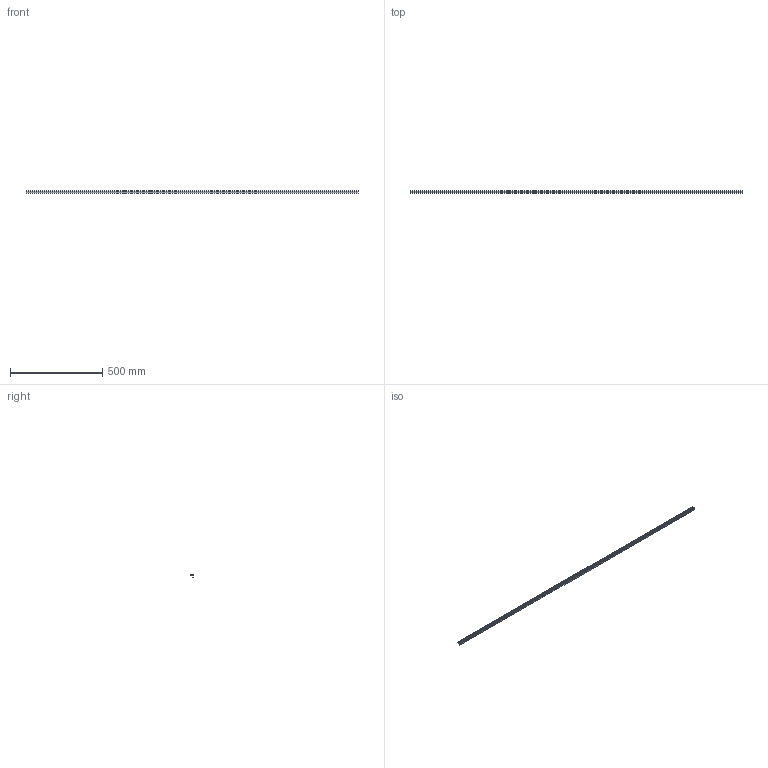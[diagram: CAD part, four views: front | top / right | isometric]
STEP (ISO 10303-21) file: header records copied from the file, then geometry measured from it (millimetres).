
FILE_DESCRIPTION( ( 'STEP AP214' ), '1' );
FILE_NAME( 'C:/Users/KOSH/Desktop/Same as task/Sliding folding/9278685.stp', '2021-07-01T13:41:49', ( '' ), ( '' ), ' ', 'PARTsolutions', ' ' );
FILE_SCHEMA( ( 'AUTOMOTIVE_DESIGN { 1 0 10303 214 1 1 1 1 }' ) );
Length unit declared in the file: millimetre
Products named in the file (1): _9278685
Bounding box: 1800 x 16 x 13.1 mm (x, y, z)
Volume: 86757.9 mm3; surface area: 121512.5 mm2
Topology: 1 solids, 1 shells, 38 faces, 108 edges, 72 vertices
Faces by surface type: plane 34, cylinder 4
Entity records: 1540 total; most frequent: CARTESIAN_POINT 219, ORIENTED_EDGE 216, DIRECTION 194, EDGE_CURVE 108, LINE 100, VECTOR 100, VERTEX_POINT 72, AXIS2_PLACEMENT_3D 47
